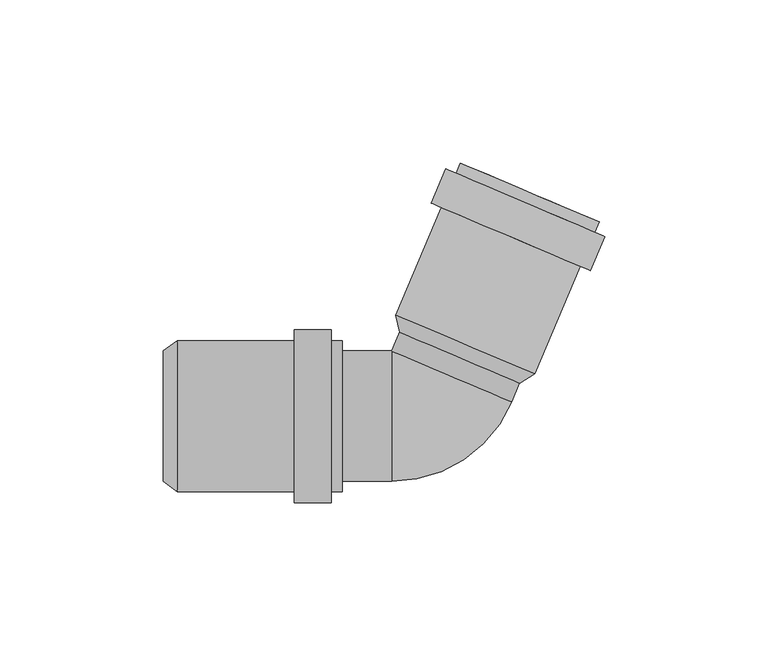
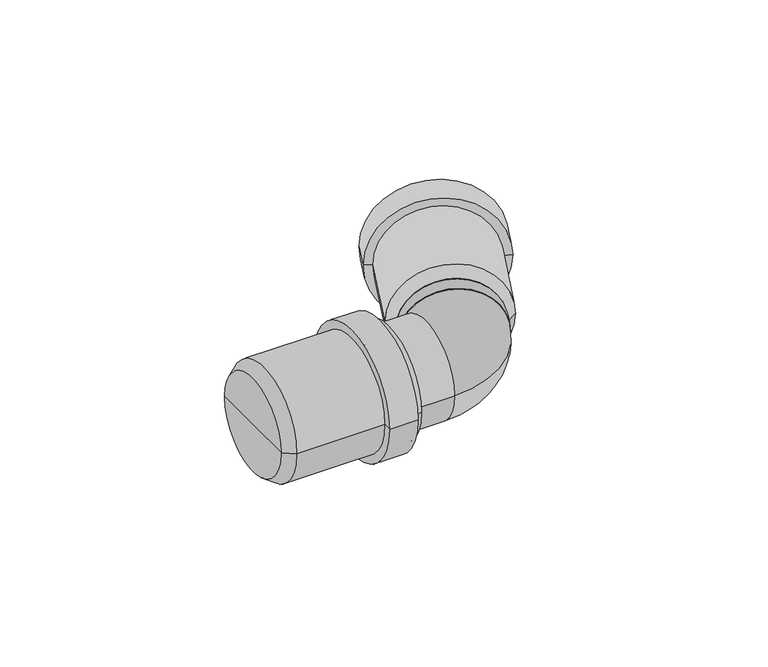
"""IFC4 building model written with IfcOpenShell, lengths in millimetres: pipe fitting geometry, pf_HTB : pf_HTB."""

import ifcopenshell
import ifcopenshell.guid

model = None  # the IFC model being written
_history = None  # IfcOwnerHistory: only IFC2X3 demands one
_inside = {}  # id of a spatial element -> (the spatial element, [elements in it])
_under = {}  # id of a project, library or spatial element -> (it, [spatial elements below it])
_declared = {}  # id of a project -> (the project, [libraries it declares])
_typed = {}  # id of a type object -> (the type object, [elements of that type])
_made_of = {}  # id of a material, layer set ... -> (it, [elements and type objects made of it])


def new_model(schema):
    """Start an empty IFC model of exactly this schema.

    Asked for "IFC4X3", IfcOpenShell would pick the latest addendum, in which some entities
    have other attributes; the version numbers below select the first issue.
    IFC2X3 requires an IfcOwnerHistory on every rooted entity: one is made here for all.
    """
    global model, _history
    if schema == "IFC4X3":
        model = ifcopenshell.file(schema_version=(4, 3, 0, 0))
    else:
        model = ifcopenshell.file(schema=schema)
    _inside.clear()
    _under.clear()
    _declared.clear()
    _typed.clear()
    _made_of.clear()
    _history = None
    if model.schema == "IFC2X3":
        org = make("IfcOrganization", Name="unknown")
        user = make(
            "IfcPersonAndOrganization",
            ThePerson=make("IfcPerson", FamilyName="unknown"),
            TheOrganization=org,
        )
        app = make(
            "IfcApplication",
            ApplicationDeveloper=org,
            Version="unknown",
            ApplicationFullName="unknown",
            ApplicationIdentifier="unknown",
        )
        _history = make(
            "IfcOwnerHistory",
            OwningUser=user,
            OwningApplication=app,
            ChangeAction="ADDED",
            CreationDate=0,
        )
    return model


def make(cls, **values):
    """One entity of the class cls with the attributes given. An attribute that is None is left unset."""
    return model.create_entity(
        cls, **{name: value for name, value in values.items() if value is not None}
    )


def rooted(cls, **values):
    """An entity with a GlobalId (a new one), such as an element, a storey or a relation."""
    return make(cls, GlobalId=ifcopenshell.guid.new(), OwnerHistory=_history, **values)


def si_unit(unit_type, name, prefix=None):
    """IfcSIUnit, for example si_unit("LENGTHUNIT", "METRE", prefix="MILLI")."""
    return make("IfcSIUnit", UnitType=unit_type, Prefix=prefix, Name=name)


def assignment(units):
    """IfcUnitAssignment: the units of a project."""
    return None if units is None else make("IfcUnitAssignment", Units=units)


def point(xyz):
    """IfcCartesianPoint."""
    return None if xyz is None else make("IfcCartesianPoint", Coordinates=xyz)


def direction(xyz):
    """IfcDirection."""
    return None if xyz is None else make("IfcDirection", DirectionRatios=xyz)


def frame(location, z_axis=None, x_axis=None):
    """IfcAxis2Placement3D, a coordinate frame: its origin and axes. An axis left out is left unset."""
    return make(
        "IfcAxis2Placement3D",
        Location=point(location),
        Axis=direction(z_axis),
        RefDirection=direction(x_axis),
    )


def frame_2d(location, x_axis=None):
    """IfcAxis2Placement2D, a coordinate frame in the plane: its origin and x axis."""
    return make(
        "IfcAxis2Placement2D", Location=point(location), RefDirection=direction(x_axis)
    )


def origin():
    """The frame at (0, 0, 0) with its axes left unset."""
    return frame((0.0, 0.0, 0.0))


def origin_2d():
    """The frame at (0, 0) in the plane with its x axis left unset."""
    return frame_2d((0.0, 0.0))


def place(relative_to, where):
    """IfcLocalPlacement: puts the frame where relative to a parent placement (None: the world)."""
    return make(
        "IfcLocalPlacement", PlacementRelTo=relative_to, RelativePlacement=where
    )


def context(
    kind, dimensions, precision=None, world=None, true_north=None, identifier=None
):
    """IfcGeometricRepresentationContext, for example the 3D "Model" context."""
    return make(
        "IfcGeometricRepresentationContext",
        ContextIdentifier=identifier,
        ContextType=kind,
        CoordinateSpaceDimension=dimensions,
        Precision=precision,
        WorldCoordinateSystem=world,
        TrueNorth=true_north,
    )


def project(units=None, contexts=None):
    """IfcProject with its units and contexts."""
    return rooted(
        "IfcProject",
        Name="project",
        RepresentationContexts=contexts,
        UnitsInContext=assignment(units),
    )


def spatial(cls, under=None, at=None, **own):
    """A site, building, storey or space (cls), placed at a placement, below another one or the project."""
    s = rooted(cls, ObjectPlacement=at, **own)
    if under is not None:
        _under.setdefault(under.id(), (under, []))[1].append(s)
    return s


def polyline(points):
    """IfcPolyline through the points."""
    return make("IfcPolyline", Points=[point(p) for p in points])


def circle_curve(where, radius):
    """IfcCircle in the frame where."""
    return make("IfcCircle", Position=where, Radius=radius)


def ellipse_curve(where, semi_axis1, semi_axis2):
    """IfcEllipse in the frame where."""
    return make(
        "IfcEllipse", Position=where, SemiAxis1=semi_axis1, SemiAxis2=semi_axis2
    )


def trimmed(basis, trim1, trim2, sense, master):
    """IfcTrimmedCurve: the piece of a basis curve between two trims."""
    return make(
        "IfcTrimmedCurve",
        BasisCurve=basis,
        Trim1=trim1,
        Trim2=trim2,
        SenseAgreement=sense,
        MasterRepresentation=master,
    )


def segment(curve, same_sense, transition):
    """IfcCompositeCurveSegment."""
    return make(
        "IfcCompositeCurveSegment",
        Transition=transition,
        SameSense=same_sense,
        ParentCurve=curve,
    )


def composite_curve(segments, self_intersect=None):
    """IfcCompositeCurve: segments joined end to end."""
    return make("IfcCompositeCurve", Segments=segments, SelfIntersect=self_intersect)


def outline(outer, holes=None, kind="AREA"):
    """IfcArbitraryClosedProfileDef: a profile drawn as a closed curve; with holes, ...WithVoids."""
    if holes is None:
        return make("IfcArbitraryClosedProfileDef", ProfileType=kind, OuterCurve=outer)
    return make(
        "IfcArbitraryProfileDefWithVoids",
        ProfileType=kind,
        OuterCurve=outer,
        InnerCurves=holes,
    )


def extrude(swept, where, along, depth):
    """IfcExtrudedAreaSolid: the profile swept, set in the frame where, extruded along a direction by depth."""
    return make(
        "IfcExtrudedAreaSolid",
        SweptArea=swept,
        Position=where,
        ExtrudedDirection=direction(along),
        Depth=depth,
    )


def shape(context_of_items, identifier, shape_type, items):
    """IfcShapeRepresentation: the items that make up one representation, for example the "Body"."""
    return make(
        "IfcShapeRepresentation",
        ContextOfItems=context_of_items,
        RepresentationIdentifier=identifier,
        RepresentationType=shape_type,
        Items=items,
    )


def source(mapping_origin, context_of_items, identifier, shape_type, items):
    """IfcRepresentationMap: a shape defined once, which mapped items show again and again."""
    return make(
        "IfcRepresentationMap",
        MappingOrigin=mapping_origin,
        MappedRepresentation=shape(context_of_items, identifier, shape_type, items),
    )


def transform(
    local_origin,
    x_axis=None,
    y_axis=None,
    z_axis=None,
    scale=None,
    scale2=None,
    scale3=None,
    uniform=True,
):
    """IfcCartesianTransformationOperator3D, or its non-uniform kind. x_axis, y_axis, z_axis: its Axis1, 2, 3."""
    if uniform:
        return make(
            "IfcCartesianTransformationOperator3D",
            Axis1=direction(x_axis),
            Axis2=direction(y_axis),
            LocalOrigin=point(local_origin),
            Scale=scale,
            Axis3=direction(z_axis),
        )
    return make(
        "IfcCartesianTransformationOperator3DnonUniform",
        Axis1=direction(x_axis),
        Axis2=direction(y_axis),
        LocalOrigin=point(local_origin),
        Scale=scale,
        Axis3=direction(z_axis),
        Scale2=scale2,
        Scale3=scale3,
    )


def mapped(mapping_source, mapping_target):
    """IfcMappedItem: shows the shape of a source again, moved by a transform."""
    return make(
        "IfcMappedItem", MappingSource=mapping_source, MappingTarget=mapping_target
    )


def made_of(thing, what):
    """Note that an element or type object is made of a material, layer set ...; save() writes the relation."""
    if what is not None:
        _made_of.setdefault(what.id(), (what, []))[1].append(thing)
    return thing


def element(
    cls,
    number,
    at=None,
    inside=None,
    cuts=None,
    type_object=None,
    material=None,
    context=None,
    identifier="Body",
    shape_type=None,
    held_by="IfcProductDefinitionShape",
    body=None,
    shapes=None,
    **own,
):
    """One element of the class cls, such as IfcWall. Its Tag is "e" and its number.

    at: its placement. inside: the storey or other place that contains it. cuts: it is an
    opening in that element (IfcRelVoidsElement). A single representation is given by context,
    identifier, shape_type and body (its items); several are given by shapes. held_by: the class
    of the entity that holds the representations. save() writes the other relations.
    """
    e = rooted(cls, Tag="e%d" % number, ObjectPlacement=at, **own)
    if body is not None:
        shapes = [shape(context, identifier, shape_type, body)]
    if shapes is not None:
        e.Representation = make(held_by, Representations=shapes)
    if inside is not None:
        _inside.setdefault(inside.id(), (inside, []))[1].append(e)
    if cuts is not None:
        rooted(
            "IfcRelVoidsElement", RelatingBuildingElement=cuts, RelatedOpeningElement=e
        )
    if type_object is not None:
        _typed.setdefault(type_object.id(), (type_object, []))[1].append(e)
    return made_of(e, material)


def aggregate(whole, parts):
    """IfcRelAggregates: a whole, such as a stair, and the parts it consists of."""
    return rooted("IfcRelAggregates", RelatingObject=whole, RelatedObjects=parts)


def save(model, path):
    """Write the relations noted so far, then the file.

    IfcRelAggregates (storeys below a building ...), IfcRelContainedInSpatialStructure (elements
    in a storey), IfcRelDefinesByType, IfcRelAssociatesMaterial and IfcRelDeclares: one each for
    every whole, place, type object, material and project.
    """
    for whole, parts in _under.values():
        aggregate(whole, parts)
    for where, things in _inside.values():
        rooted(
            "IfcRelContainedInSpatialStructure",
            RelatedElements=things,
            RelatingStructure=where,
        )
    for kind, things in _typed.values():
        rooted("IfcRelDefinesByType", RelatedObjects=things, RelatingType=kind)
    for what, things in _made_of.values():
        rooted("IfcRelAssociatesMaterial", RelatedObjects=things, RelatingMaterial=what)
    for by, libraries in _declared.values():
        rooted("IfcRelDeclares", RelatingContext=by, RelatedDefinitions=libraries)
    model.write(path)


def plane_surface(at):
    """IfcPlane: the flat surface through the origin of the frame at, square to its z axis."""
    return make("IfcPlane", Position=at)


def cylinder_surface(at, radius):
    """IfcCylindricalSurface: all points at the distance radius from the z axis of the frame at."""
    return make("IfcCylindricalSurface", Position=at, Radius=radius)


def revolved_surface(curve, axis_point, axis_direction):
    """IfcSurfaceOfRevolution: the curve turned about the line through axis_point along axis_direction."""
    return make(
        "IfcSurfaceOfRevolution",
        SweptCurve=make("IfcArbitraryOpenProfileDef", ProfileType="CURVE", Curve=curve),
        AxisPosition=make("IfcAxis1Placement", Location=point(axis_point), Axis=direction(axis_direction)),
    )


def advanced_brep(points, edges, surfaces, faces):
    """IfcAdvancedBrep: a solid bounded by faces that lie on surfaces and meet in shared edges.

    An edge is (start, end): straight between two places in points (the first is 0);
    or (start, end, curve); or (start, end, curve, False) where it runs against its curve.
    A face is (place in surfaces, loops), or (place, loops, False) where it looks against
    its surface's normal. A loop lists edges by number (the first is 1), with a minus sign
    where the edge is run from its end to its start. The first loop is the outer one.
    """
    corners = [point(p) for p in points]
    vertices = [make("IfcVertexPoint", VertexGeometry=c) for c in corners]
    made = []
    for start, end, *more in edges:
        made.append(
            make(
                "IfcEdgeCurve",
                EdgeStart=vertices[start],
                EdgeEnd=vertices[end],
                EdgeGeometry=more[0] if more else make("IfcPolyline", Points=[corners[start], corners[end]]),
                SameSense=more[1] if len(more) > 1 else True,
            )
        )
    hull = []
    for where, loops, *sense in faces:
        bounds = []
        for j, loop in enumerate(loops):
            ring = [make("IfcOrientedEdge", EdgeElement=made[abs(k) - 1], Orientation=k > 0) for k in loop]
            bounds.append(
                make(
                    "IfcFaceOuterBound" if j == 0 else "IfcFaceBound",
                    Bound=make("IfcEdgeLoop", EdgeList=ring),
                    Orientation=True,
                )
            )
        hull.append(make("IfcAdvancedFace", Bounds=bounds, FaceSurface=surfaces[where], SameSense=sense[0] if sense else True))
    return make("IfcAdvancedBrep", Outer=make("IfcClosedShell", CfsFaces=hull))


def pipe_fitting_8e6235ef(model_context):
    return source(origin(), model_context, "Body", "SolidModel", [
        advanced_brep(
        [(26.0293541, 10.1352221, 0.0), (-10.7908401, 25.7644672, 0.0), (-11.9251881, 31.0259551, 0.0), (30.6021361, 12.9741769, 0.0), (7.619257, 17.9498446, 0.0), (50.3731312, 59.5517225, 0.0), (7.845807, 77.6035007, 0.0), (10.699372, 76.3922342, 0.0), (47.5195661, 60.762989, 0.0), (49.0446454, 56.422006, 0.0), (6.5173211, 74.4737841, 0.0), (52.1743619, 55.0935202, 0.0), (3.3876046, 75.80227, 0.0), (47.720027, 44.5997648, 0.0), (-1.0667302, 65.3085147, 0.0), (44.5903105, 45.9282507, 0.0), (2.0629863, 63.9800288, 0.0), (27.748571, 14.1854434, 0.0), (-9.0716231, 29.8146886, 0.0), (9.338474, 22.000066, 0.0)],
        [
            (0, 1, circle_curve(frame((7.619257, 17.9498446, 0.0), z_axis=(0.3907311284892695, 0.9205048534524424, 0.0), x_axis=(-0.9205048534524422, 0.3907311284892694, 0.0)), 20.0)),
            (1, 2),
            (2, 3, circle_curve(frame((9.338474, 22.000066, 0.0), z_axis=(-0.3907311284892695, -0.9205048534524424, 0.0), x_axis=(-0.9205048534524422, 0.3907311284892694, 0.0)), 23.1)),
            (3, 0),
            (1, 0, circle_curve(frame((7.619257, 17.9498446, 0.0), z_axis=(0.3907311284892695, 0.9205048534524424, 0.0), x_axis=(-0.9205048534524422, 0.3907311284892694, 0.0)), 20.0)),
            (3, 2, circle_curve(frame((9.338474, 22.000066, 0.0), z_axis=(-0.3907311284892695, -0.9205048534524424, 0.0), x_axis=(-0.9205048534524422, 0.3907311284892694, 0.0)), 23.1)),
            (4, 1),
            (0, 4),
            (5, 6, circle_curve(frame((29.1094691, 68.5776116, 0.0), z_axis=(0.3907311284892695, 0.9205048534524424, 0.0), x_axis=(-0.9205048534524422, 0.3907311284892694, 0.0)), 23.1)),
            (6, 7),
            (7, 8, circle_curve(frame((29.1094691, 68.5776116, 0.0), z_axis=(-0.3907311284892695, -0.9205048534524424, 0.0), x_axis=(-0.9205048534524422, 0.3907311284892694, 0.0)), 20.0)),
            (8, 5),
            (6, 5, circle_curve(frame((29.1094691, 68.5776116, 0.0), z_axis=(0.3907311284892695, 0.9205048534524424, 0.0), x_axis=(-0.9205048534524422, 0.3907311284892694, 0.0)), 23.1)),
            (8, 7, circle_curve(frame((29.1094691, 68.5776116, 0.0), z_axis=(-0.3907311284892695, -0.9205048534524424, 0.0), x_axis=(-0.9205048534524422, 0.3907311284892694, 0.0)), 20.0)),
            (9, 10, circle_curve(frame((27.7809832, 65.4478951, 0.0), z_axis=(0.3907311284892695, 0.9205048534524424, 0.0), x_axis=(-0.9205048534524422, 0.3907311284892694, 0.0)), 23.1)),
            (10, 6),
            (5, 9),
            (10, 9, circle_curve(frame((27.7809832, 65.4478951, 0.0), z_axis=(0.3907311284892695, 0.9205048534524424, 0.0), x_axis=(-0.9205048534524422, 0.3907311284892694, 0.0)), 23.1)),
            (11, 12, circle_curve(frame((27.7809832, 65.4478951, 0.0), z_axis=(0.3907311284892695, 0.9205048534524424, 0.0), x_axis=(-0.9205048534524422, 0.3907311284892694, 0.0)), 26.5)),
            (12, 10),
            (9, 11),
            (12, 11, circle_curve(frame((27.7809832, 65.4478951, 0.0), z_axis=(0.3907311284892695, 0.9205048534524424, 0.0), x_axis=(-0.9205048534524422, 0.3907311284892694, 0.0)), 26.5)),
            (13, 14, circle_curve(frame((23.3266484, 54.9541398, 0.0), z_axis=(0.3907311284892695, 0.9205048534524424, 0.0), x_axis=(-0.9205048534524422, 0.3907311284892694, 0.0)), 26.5)),
            (14, 12),
            (11, 13),
            (14, 13, circle_curve(frame((23.3266484, 54.9541398, 0.0), z_axis=(0.3907311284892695, 0.9205048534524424, 0.0), x_axis=(-0.9205048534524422, 0.3907311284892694, 0.0)), 26.5)),
            (15, 16, circle_curve(frame((23.3266484, 54.9541398, 0.0), z_axis=(0.3907311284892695, 0.9205048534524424, 0.0), x_axis=(-0.9205048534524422, 0.3907311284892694, 0.0)), 23.1)),
            (16, 14),
            (13, 15),
            (16, 15, circle_curve(frame((23.3266484, 54.9541398, 0.0), z_axis=(0.3907311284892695, 0.9205048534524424, 0.0), x_axis=(-0.9205048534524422, 0.3907311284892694, 0.0)), 23.1)),
            (2, 16),
            (15, 3),
            (17, 18, circle_curve(frame((9.338474, 22.000066, 0.0), z_axis=(0.3907311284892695, 0.9205048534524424, 0.0), x_axis=(-0.9205048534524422, 0.3907311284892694, 0.0)), 20.0)),
            (18, 19),
            (19, 17),
            (18, 17, circle_curve(frame((9.338474, 22.000066, 0.0), z_axis=(0.3907311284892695, 0.9205048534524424, 0.0), x_axis=(-0.9205048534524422, 0.3907311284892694, 0.0)), 20.0)),
            (7, 18),
            (17, 8),
        ],
        [
            revolved_surface(polyline([(-11.9251881, 31.0259551, 0.0), (-10.7908401, 25.7644672, 0.0)]), (7.619257, 17.9498446, 0.0), (-0.3907311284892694, -0.9205048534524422, 0.0)),
            plane_surface(frame((7.619257, 17.9498446, 0.0), z_axis=(-0.39073112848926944, -0.9205048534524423, 0.0), x_axis=(-0.9205048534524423, 0.39073112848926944, 0.0))),
            plane_surface(frame((29.1094691, 68.5776116, 0.0), z_axis=(0.39073112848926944, 0.9205048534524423, 0.0), x_axis=(-0.9205048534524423, 0.39073112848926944, 0.0))),
            cylinder_surface(frame((7.619257, 17.9498446, 0.0), z_axis=(-0.3907311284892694, -0.9205048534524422, 0.0), x_axis=(-0.9205048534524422, 0.3907311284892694, 0.0)), 23.1),
            plane_surface(frame((27.7809832, 65.4478951, 0.0), z_axis=(0.39073112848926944, 0.9205048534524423, 0.0), x_axis=(-0.9205048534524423, 0.39073112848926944, 0.0))),
            cylinder_surface(frame((7.619257, 17.9498446, 0.0), z_axis=(-0.3907311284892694, -0.9205048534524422, 0.0), x_axis=(-0.9205048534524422, 0.3907311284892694, 0.0)), 26.5),
            plane_surface(frame((23.3266484, 54.9541398, 0.0), z_axis=(-0.39073112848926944, -0.9205048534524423, 0.0), x_axis=(-0.9205048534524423, 0.39073112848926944, 0.0))),
            plane_surface(frame((9.338474, 22.000066, 0.0), z_axis=(0.39073112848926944, 0.9205048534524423, 0.0), x_axis=(-0.9205048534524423, 0.39073112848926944, 0.0))),
            revolved_surface(polyline([(-9.071623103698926, 29.81468852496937, 0.0), (10.699372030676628, 76.39223418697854, 0.0)]), (7.619257, 17.9498446, 0.0), (-0.3907311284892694, -0.9205048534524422, 0.0)),
        ],
        [
            (0, [[1, 2, 3, 4]]),
            (0, [[5, -4, 6, -2]]),
            (1, [[7, -1, 8]]),
            (1, [[-8, -5, -7]]),
            (2, [[9, 10, 11, 12]]),
            (2, [[13, -12, 14, -10]]),
            (3, [[15, 16, -9, 17]]),
            (3, [[18, -17, -13, -16]]),
            (4, [[19, 20, -15, 21]]),
            (4, [[22, -21, -18, -20]]),
            (5, [[23, 24, -19, 25]]),
            (5, [[26, -25, -22, -24]]),
            (6, [[27, 28, -23, 29]]),
            (6, [[30, -29, -26, -28]]),
            (3, [[-3, 31, -27, 32]]),
            (3, [[-6, -32, -30, -31]]),
            (7, [[33, 34, 35]]),
            (7, [[36, -35, -34]]),
            (8, [[-11, 37, -33, 38]]),
            (8, [[-14, -38, -36, -37]]),
        ],
    ),
        advanced_brep(
        [(-83.3, -20.0, 0.0), (-83.3, 20.0, 0.0), (-78.9, 23.1, 0.0), (-78.9, -23.1, 0.0), (-83.3, 0.0, 0.0), (-28.3, -23.1, 0.0), (-28.3, 23.1, 0.0), (-28.3, 20.0, 0.0), (-28.3, -20.0, 0.0), (-31.7, -23.1, 0.0), (-31.7, 23.1, 0.0), (-31.7, -26.5, 0.0), (-31.7, 26.5, 0.0), (-43.1, -26.5, 0.0), (-43.1, 26.5, 0.0), (-43.1, -23.1, 0.0), (-43.1, 23.1, 0.0), (-78.9, -20.0, 0.0), (-78.9, 20.0, 0.0), (-78.9, 0.0, 0.0)],
        [
            (0, 1, circle_curve(frame((-83.3, 0.0, 0.0), z_axis=(1.0, 0.0, 0.0), x_axis=(0.0, 1.0, 0.0)), 20.0)),
            (1, 2),
            (2, 3, circle_curve(frame((-78.9, 0.0, 0.0), z_axis=(-1.0, 0.0, 0.0), x_axis=(0.0, 1.0, 0.0)), 23.1)),
            (3, 0),
            (1, 0, circle_curve(frame((-83.3, 0.0, 0.0), z_axis=(1.0, 0.0, 0.0), x_axis=(0.0, 1.0, 0.0)), 20.0)),
            (3, 2, circle_curve(frame((-78.9, 0.0, 0.0), z_axis=(-1.0, 0.0, 0.0), x_axis=(0.0, 1.0, 0.0)), 23.1)),
            (4, 1),
            (0, 4),
            (5, 6, circle_curve(frame((-28.3, 0.0, 0.0), z_axis=(1.0, 0.0, 0.0), x_axis=(0.0, 1.0, 0.0)), 23.1)),
            (6, 7),
            (7, 8, circle_curve(frame((-28.3, 0.0, 0.0), z_axis=(-1.0, 0.0, 0.0), x_axis=(0.0, 1.0, 0.0)), 20.0)),
            (8, 5),
            (6, 5, circle_curve(frame((-28.3, 0.0, 0.0), z_axis=(1.0, 0.0, 0.0), x_axis=(0.0, 1.0, 0.0)), 23.1)),
            (8, 7, circle_curve(frame((-28.3, 0.0, 0.0), z_axis=(-1.0, 0.0, 0.0), x_axis=(0.0, 1.0, 0.0)), 20.0)),
            (9, 10, circle_curve(frame((-31.7, 0.0, 0.0), z_axis=(1.0, 0.0, 0.0), x_axis=(0.0, 1.0, 0.0)), 23.1)),
            (10, 6),
            (5, 9),
            (10, 9, circle_curve(frame((-31.7, 0.0, 0.0), z_axis=(1.0, 0.0, 0.0), x_axis=(0.0, 1.0, 0.0)), 23.1)),
            (11, 12, circle_curve(frame((-31.7, 0.0, 0.0), z_axis=(1.0, 0.0, 0.0), x_axis=(0.0, 1.0, 0.0)), 26.5)),
            (12, 10),
            (9, 11),
            (12, 11, circle_curve(frame((-31.7, 0.0, 0.0), z_axis=(1.0, 0.0, 0.0), x_axis=(0.0, 1.0, 0.0)), 26.5)),
            (13, 14, circle_curve(frame((-43.1, 0.0, 0.0), z_axis=(1.0, 0.0, 0.0), x_axis=(0.0, 1.0, 0.0)), 26.5)),
            (14, 12),
            (11, 13),
            (14, 13, circle_curve(frame((-43.1, 0.0, 0.0), z_axis=(1.0, 0.0, 0.0), x_axis=(0.0, 1.0, 0.0)), 26.5)),
            (15, 16, circle_curve(frame((-43.1, 0.0, 0.0), z_axis=(1.0, 0.0, 0.0), x_axis=(0.0, 1.0, 0.0)), 23.1)),
            (16, 14),
            (13, 15),
            (16, 15, circle_curve(frame((-43.1, 0.0, 0.0), z_axis=(1.0, 0.0, 0.0), x_axis=(0.0, 1.0, 0.0)), 23.1)),
            (2, 16),
            (15, 3),
            (17, 18, circle_curve(frame((-78.9, 0.0, 0.0), z_axis=(1.0, 0.0, 0.0), x_axis=(0.0, 1.0, 0.0)), 20.0)),
            (18, 19),
            (19, 17),
            (18, 17, circle_curve(frame((-78.9, 0.0, 0.0), z_axis=(1.0, 0.0, 0.0), x_axis=(0.0, 1.0, 0.0)), 20.0)),
            (7, 18),
            (17, 8),
        ],
        [
            revolved_surface(polyline([(-78.9, 23.1, 0.0), (-83.3, 20.0, 0.0)]), (-83.3, 0.0, 0.0), (-1.0, 0.0, 0.0)),
            plane_surface(frame((-83.3, 0.0, 0.0), z_axis=(-1.0, 0.0, 0.0), x_axis=(0.0, 1.0, 0.0))),
            plane_surface(frame((-28.3, 0.0, 0.0), z_axis=(1.0, 0.0, 0.0), x_axis=(0.0, 1.0, 0.0))),
            cylinder_surface(frame((-83.3, 0.0, 0.0), z_axis=(-1.0, 0.0, 0.0), x_axis=(0.0, 1.0, 0.0)), 23.1),
            plane_surface(frame((-31.7, 0.0, 0.0), z_axis=(1.0, 0.0, 0.0), x_axis=(0.0, 1.0, 0.0))),
            cylinder_surface(frame((-83.3, 0.0, 0.0), z_axis=(-1.0, 0.0, 0.0), x_axis=(0.0, 1.0, 0.0)), 26.5),
            plane_surface(frame((-43.1, 0.0, 0.0), z_axis=(-1.0, 0.0, 0.0), x_axis=(0.0, 1.0, 0.0))),
            plane_surface(frame((-78.9, 0.0, 0.0), z_axis=(1.0, 0.0, 0.0), x_axis=(0.0, 1.0, 0.0))),
            revolved_surface(polyline([(-78.9, 20.0, 0.0), (-28.299999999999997, 20.0, 0.0)]), (-83.3, 0.0, 0.0), (-1.0, 0.0, 0.0)),
        ],
        [
            (0, [[1, 2, 3, 4]]),
            (0, [[5, -4, 6, -2]]),
            (1, [[7, -1, 8]]),
            (1, [[-8, -5, -7]]),
            (2, [[9, 10, 11, 12]]),
            (2, [[13, -12, 14, -10]]),
            (3, [[15, 16, -9, 17]]),
            (3, [[18, -17, -13, -16]]),
            (4, [[19, 20, -15, 21]]),
            (4, [[22, -21, -18, -20]]),
            (5, [[23, 24, -19, 25]]),
            (5, [[26, -25, -22, -24]]),
            (6, [[27, 28, -23, 29]]),
            (6, [[30, -29, -26, -28]]),
            (3, [[-3, 31, -27, 32]]),
            (3, [[-6, -32, -30, -31]]),
            (7, [[33, 34, 35]]),
            (7, [[36, -35, -34]]),
            (8, [[-11, 37, -33, 38]]),
            (8, [[-14, -38, -36, -37]]),
        ],
    ),
        extrude(outline(composite_curve([segment(trimmed(circle_curve(origin_2d(), 20.0), [point((0.0, -19.9999999))], [point((0.0, 20.0))], False, "CARTESIAN"), True, "CONTINUOUS"), segment(trimmed(circle_curve(origin_2d(), 20.0), [point((0.0, 20.0))], [point((0.0, -19.9999999))], False, "CARTESIAN"), True, "CONTINUOUS")], self_intersect=False)), frame((5.1723858, 12.1853774, 0.0), z_axis=(0.3907311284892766, 0.9205048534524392, 0.0), x_axis=(0.0, 0.0, 1.0)), (0.0, 0.0, 1.0), 10.6622888),
        extrude(outline(composite_curve([segment(trimmed(circle_curve(origin_2d(), 20.0), [point((-20.0, 0.0))], [point((20.0, 0.0))], False, "CARTESIAN"), True, "CONTINUOUS"), segment(trimmed(circle_curve(origin_2d(), 20.0), [point((20.0, 0.0))], [point((-20.0, 0.0))], False, "CARTESIAN"), True, "CONTINUOUS")], self_intersect=False)), frame((-78.9, 0.0, 0.0), z_axis=(1.0, 0.0, 0.0), x_axis=(0.0, 1.0, 0.0)), (0.0, 0.0, 1.0), 65.6622888),
        advanced_brep(
        [(-13.2377112, -20.0, 0.0), (-13.2377112, 20.0, 0.0), (23.5824829, 4.3707549, 0.0)],
        [
            (0, 1, circle_curve(frame((-13.2377112, 0.0, 0.0), z_axis=(-1.0, 0.0, 0.0), x_axis=(0.0, 1.0, 0.0)), 20.0)),
            (1, 0, circle_curve(frame((-13.2377112, 0.0, 0.0), z_axis=(-1.0, 0.0, 0.0), x_axis=(0.0, 1.0, 0.0)), 20.0)),
            (2, 1, circle_curve(frame((5.1723858, 12.1853774, 0.0), z_axis=(0.39073112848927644, 0.9205048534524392, 0.0), x_axis=(-0.9205048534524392, 0.39073112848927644, 0.0)), 20.0)),
            (1, 2, circle_curve(frame((5.1723858, 12.1853774, 0.0), z_axis=(0.39073112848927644, 0.9205048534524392, 0.0), x_axis=(-0.9205048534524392, 0.39073112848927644, 0.0)), 20.0)),
            (2, 0, circle_curve(frame((-13.2377112, 20.0, 0.0), z_axis=(0.0, 0.0, -1.0), x_axis=(0.0, -1.0, 0.0)), 40.0)),
        ],
        [
            plane_surface(frame((-13.2377112, 20.0, -14.8), z_axis=(-1.0, 0.0, 0.0), x_axis=(0.0, -1.0, 0.0))),
            plane_surface(frame((-13.2377112, 20.0, -14.8), z_axis=(0.39073112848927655, 0.9205048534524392, 0.0), x_axis=(0.9205048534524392, -0.39073112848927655, 0.0))),
            revolved_surface(trimmed(ellipse_curve(frame((-13.2377112, 0.0, 0.0), z_axis=(1.0, 0.0, 0.0), x_axis=(0.0, 1.0, 0.0)), 20.0, 20.0), [point((-13.2377112, -20.0, 0.0))], [point((-13.2377112, 20.0, 0.0))], True, "CARTESIAN"), (-13.2377112, 20.0, -14.8), (0.0, 0.0, -1.0)),
            revolved_surface(trimmed(ellipse_curve(frame((-13.2377112, 0.0, 0.0), z_axis=(1.0, 0.0, 0.0), x_axis=(0.0, 1.0, 0.0)), 20.0, 20.0), [point((-13.2377112, 20.0, 0.0))], [point((-13.2377112, -20.0, 0.0))], True, "CARTESIAN"), (-13.2377112, 20.0, -14.8), (0.0, 0.0, -1.0)),
        ],
        [
            (0, [[1, 2]]),
            (1, [[3, 4]]),
            (2, [[5, -2, -3]]),
            (3, [[-1, -5, -4]]),
        ],
    ),
    ])


if __name__ == "__main__":
    model = new_model("IFC4")
    model_context = context("Model", 3, world=origin())
    ifc_project = project(units=[si_unit("LENGTHUNIT", "METRE", prefix="MILLI")], contexts=[model_context])
    site = spatial("IfcSite", under=ifc_project)
    building = spatial("IfcBuilding", under=site)
    placement = place(None, origin())
    pipe_fitting_shape = pipe_fitting_8e6235ef(model_context)
    element("IfcPipeFitting", 1, ObjectType="pf_HTB : pf_HTB", at=placement, inside=building, context=model_context, shape_type="MappedRepresentation", body=[
        mapped(pipe_fitting_shape, transform((0.0, 0.0, 0.0), x_axis=(1.0, 0.0, 0.0), y_axis=(0.0, 1.0, 0.0), z_axis=(0.0, 0.0, 1.0))),
    ])
    save(model, "model.ifc")
